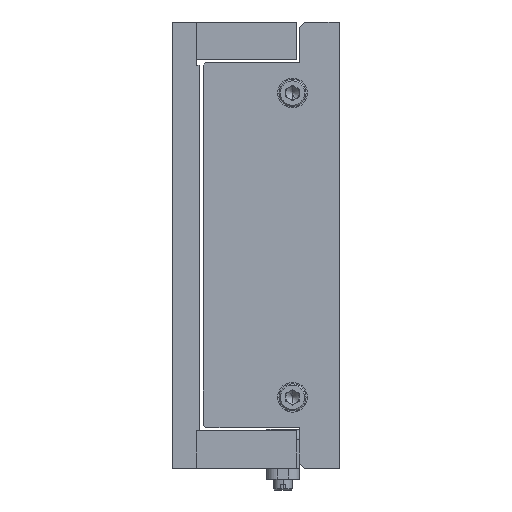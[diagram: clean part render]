
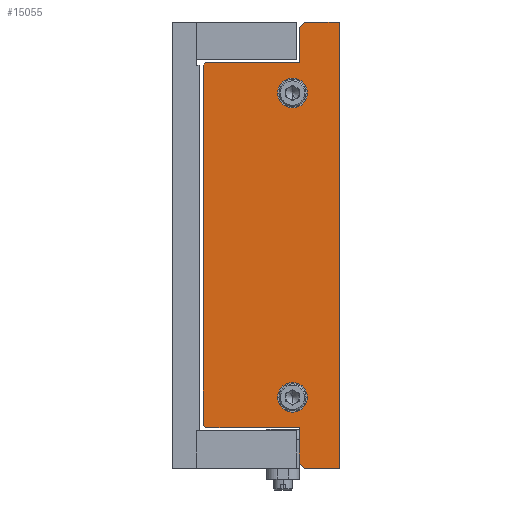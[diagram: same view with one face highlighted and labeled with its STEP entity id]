
A CAD part, left-side view. The second image highlights one B-rep face of the part: STEP entity #15055.
In plain terms, the highlighted planar face has unit normal (-1, 0, 0).
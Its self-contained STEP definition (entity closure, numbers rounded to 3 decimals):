
#99 = CARTESIAN_POINT ( 'NONE',  ( -215., 15., 67.5 ) ) ;
#462 = DIRECTION ( 'NONE',  ( 0., 1., 0. ) ) ;
#636 = LINE ( 'NONE', #15186, #35621 ) ;
#1048 = DIRECTION ( 'NONE',  ( 0., 0., 1. ) ) ;
#1095 = EDGE_LOOP ( 'NONE', ( #41796, #53863, #25285, #29300, #19360, #29048, #48874, #34674, #7753, #38085, #54609, #28973 ) ) ;
#1805 = VERTEX_POINT ( 'NONE', #3269 ) ;
#1913 = AXIS2_PLACEMENT_3D ( 'NONE', #20866, #33888, #7870 ) ;
#2095 = DIRECTION ( 'NONE',  ( 0., 0., 1. ) ) ;
#2471 = DIRECTION ( 'NONE',  ( 0., 0., -1. ) ) ;
#2683 = EDGE_CURVE ( 'NONE', #9335, #15769, #30703, .T. ) ;
#3269 = CARTESIAN_POINT ( 'NONE',  ( -215., 15., 67.5 ) ) ;
#3827 = VERTEX_POINT ( 'NONE', #6856 ) ;
#4038 = CIRCLE ( 'NONE', #36946, 5.5 ) ;
#5290 = CARTESIAN_POINT ( 'NONE',  ( -215., 0.25, -82.5 ) ) ;
#5540 = DIRECTION ( 'NONE',  ( 0., -1., 0. ) ) ;
#6050 = CARTESIAN_POINT ( 'NONE',  ( -215., 17.5, 56.25 ) ) ;
#6267 = CARTESIAN_POINT ( 'NONE',  ( -215., 0.25, 82.5 ) ) ;
#6856 = CARTESIAN_POINT ( 'NONE',  ( -215., 50.5, -66.5 ) ) ;
#6870 = DIRECTION ( 'NONE',  ( 0., -0.707, -0.707 ) ) ;
#7149 = CARTESIAN_POINT ( 'NONE',  ( -215., 13.05, -82.5 ) ) ;
#7171 = LINE ( 'NONE', #39619, #52962 ) ;
#7258 = CIRCLE ( 'NONE', #48927, 5.5 ) ;
#7294 = LINE ( 'NONE', #51054, #48445 ) ;
#7319 = DIRECTION ( 'NONE',  ( 0., 0., 1. ) ) ;
#7753 = ORIENTED_EDGE ( 'NONE', *, *, #30975, .T. ) ;
#7870 = DIRECTION ( 'NONE',  ( 0., 0., -1. ) ) ;
#8433 = VERTEX_POINT ( 'NONE', #13884 ) ;
#9335 = VERTEX_POINT ( 'NONE', #41493 ) ;
#9657 = VERTEX_POINT ( 'NONE', #7149 ) ;
#10250 = CARTESIAN_POINT ( 'NONE',  ( -215., 50.5, 66.5 ) ) ;
#10600 = VERTEX_POINT ( 'NONE', #35654 ) ;
#11937 = LINE ( 'NONE', #99, #30807 ) ;
#12918 = CARTESIAN_POINT ( 'NONE',  ( -215., 49.5, -67.5 ) ) ;
#13059 = DIRECTION ( 'NONE',  ( 0., 0., -1. ) ) ;
#13884 = CARTESIAN_POINT ( 'NONE',  ( -215., 50.5, 66.5 ) ) ;
#14466 = DIRECTION ( 'NONE',  ( 0., 0., 1. ) ) ;
#14814 = VERTEX_POINT ( 'NONE', #31471 ) ;
#14934 = CARTESIAN_POINT ( 'NONE',  ( -215., 49.5, 67.5 ) ) ;
#15055 = ADVANCED_FACE ( 'NONE', ( #43562, #17955, #38871 ), #47251, .F. ) ;
#15186 = CARTESIAN_POINT ( 'NONE',  ( -215., 13.05, -82.5 ) ) ;
#15433 = LINE ( 'NONE', #54382, #54433 ) ;
#15541 = VECTOR ( 'NONE', #44701, 1000. ) ;
#15769 = VERTEX_POINT ( 'NONE', #34368 ) ;
#16401 = VERTEX_POINT ( 'NONE', #19933 ) ;
#16465 = VERTEX_POINT ( 'NONE', #46136 ) ;
#17150 = VERTEX_POINT ( 'NONE', #33388 ) ;
#17450 = EDGE_CURVE ( 'NONE', #43642, #10600, #39140, .T. ) ;
#17955 = FACE_BOUND ( 'NONE', #54600, .T. ) ;
#18709 = DIRECTION ( 'NONE',  ( 0., 1., 0. ) ) ;
#18852 = VECTOR ( 'NONE', #18709, 1000. ) ;
#18874 = LINE ( 'NONE', #10250, #15541 ) ;
#19360 = ORIENTED_EDGE ( 'NONE', *, *, #29477, .T. ) ;
#19912 = EDGE_CURVE ( 'NONE', #50364, #14814, #42174, .T. ) ;
#19933 = CARTESIAN_POINT ( 'NONE',  ( -215., 49.5, 67.5 ) ) ;
#20866 = CARTESIAN_POINT ( 'NONE',  ( -215., 0., 0. ) ) ;
#21233 = AXIS2_PLACEMENT_3D ( 'NONE', #41054, #49695, #7319 ) ;
#21777 = EDGE_CURVE ( 'NONE', #17150, #27552, #27066, .T. ) ;
#22641 = EDGE_CURVE ( 'NONE', #14814, #9657, #636, .T. ) ;
#23117 = LINE ( 'NONE', #12918, #36583 ) ;
#23290 = ORIENTED_EDGE ( 'NONE', *, *, #17450, .F. ) ;
#24234 = LINE ( 'NONE', #14934, #18852 ) ;
#24696 = LINE ( 'NONE', #27027, #25423 ) ;
#25285 = ORIENTED_EDGE ( 'NONE', *, *, #53003, .T. ) ;
#25423 = VECTOR ( 'NONE', #5540, 1000. ) ;
#26156 = CARTESIAN_POINT ( 'NONE',  ( -215., 15., -80.55 ) ) ;
#27027 = CARTESIAN_POINT ( 'NONE',  ( -215., 15., -67.5 ) ) ;
#27066 = LINE ( 'NONE', #34124, #47973 ) ;
#27257 = CARTESIAN_POINT ( 'NONE',  ( -215., 17.5, -56.25 ) ) ;
#27310 = DIRECTION ( 'NONE',  ( -1., 0., 0. ) ) ;
#27552 = VERTEX_POINT ( 'NONE', #6267 ) ;
#27940 = DIRECTION ( 'NONE',  ( -1., 0., 0. ) ) ;
#28973 = ORIENTED_EDGE ( 'NONE', *, *, #38184, .T. ) ;
#29048 = ORIENTED_EDGE ( 'NONE', *, *, #43263, .T. ) ;
#29300 = ORIENTED_EDGE ( 'NONE', *, *, #33267, .T. ) ;
#29477 = EDGE_CURVE ( 'NONE', #1805, #16401, #24234, .T. ) ;
#30703 = CIRCLE ( 'NONE', #33527, 5.5 ) ;
#30807 = VECTOR ( 'NONE', #13059, 1000. ) ;
#30975 = EDGE_CURVE ( 'NONE', #41044, #50364, #24696, .T. ) ;
#31471 = CARTESIAN_POINT ( 'NONE',  ( -215., 15., -80.55 ) ) ;
#33267 = EDGE_CURVE ( 'NONE', #16465, #1805, #11937, .T. ) ;
#33332 = CARTESIAN_POINT ( 'NONE',  ( -215., 13.05, 82.5 ) ) ;
#33388 = CARTESIAN_POINT ( 'NONE',  ( -215., 0.25, -82.5 ) ) ;
#33527 = AXIS2_PLACEMENT_3D ( 'NONE', #49109, #27310, #14466 ) ;
#33888 = DIRECTION ( 'NONE',  ( 1., 0., 0. ) ) ;
#33939 = DIRECTION ( 'NONE',  ( 0., 0.707, -0.707 ) ) ;
#34124 = CARTESIAN_POINT ( 'NONE',  ( -215., 0.25, 82.5 ) ) ;
#34368 = CARTESIAN_POINT ( 'NONE',  ( -215., 17.5, 50.75 ) ) ;
#34674 = ORIENTED_EDGE ( 'NONE', *, *, #40146, .T. ) ;
#35378 = VECTOR ( 'NONE', #48174, 1000. ) ;
#35621 = VECTOR ( 'NONE', #6870, 1000. ) ;
#35654 = CARTESIAN_POINT ( 'NONE',  ( -215., 17.5, -61.75 ) ) ;
#36583 = VECTOR ( 'NONE', #43075, 1000. ) ;
#36677 = ORIENTED_EDGE ( 'NONE', *, *, #2683, .F. ) ;
#36946 = AXIS2_PLACEMENT_3D ( 'NONE', #6050, #27940, #2095 ) ;
#37834 = EDGE_CURVE ( 'NONE', #15769, #9335, #4038, .T. ) ;
#37902 = ORIENTED_EDGE ( 'NONE', *, *, #38788, .F. ) ;
#37919 = EDGE_CURVE ( 'NONE', #8433, #3827, #15433, .T. ) ;
#38063 = DIRECTION ( 'NONE',  ( 0., 0., 1. ) ) ;
#38085 = ORIENTED_EDGE ( 'NONE', *, *, #19912, .T. ) ;
#38184 = EDGE_CURVE ( 'NONE', #9657, #17150, #45696, .T. ) ;
#38788 = EDGE_CURVE ( 'NONE', #10600, #43642, #7258, .T. ) ;
#38871 = FACE_OUTER_BOUND ( 'NONE', #1095, .T. ) ;
#39140 = CIRCLE ( 'NONE', #21233, 5.5 ) ;
#39619 = CARTESIAN_POINT ( 'NONE',  ( -215., 13.05, 82.5 ) ) ;
#39653 = VECTOR ( 'NONE', #39934, 1000. ) ;
#39934 = DIRECTION ( 'NONE',  ( 0., -1., 0. ) ) ;
#40146 = EDGE_CURVE ( 'NONE', #3827, #41044, #23117, .T. ) ;
#40713 = CARTESIAN_POINT ( 'NONE',  ( -215., 49.5, -67.5 ) ) ;
#41044 = VERTEX_POINT ( 'NONE', #40713 ) ;
#41054 = CARTESIAN_POINT ( 'NONE',  ( -215., 17.5, -56.25 ) ) ;
#41493 = CARTESIAN_POINT ( 'NONE',  ( -215., 17.5, 61.75 ) ) ;
#41796 = ORIENTED_EDGE ( 'NONE', *, *, #21777, .T. ) ;
#42174 = LINE ( 'NONE', #26156, #35378 ) ;
#42960 = CARTESIAN_POINT ( 'NONE',  ( -215., 17.5, -50.75 ) ) ;
#43075 = DIRECTION ( 'NONE',  ( 0., -0.707, -0.707 ) ) ;
#43263 = EDGE_CURVE ( 'NONE', #16401, #8433, #18874, .T. ) ;
#43562 = FACE_BOUND ( 'NONE', #50637, .T. ) ;
#43642 = VERTEX_POINT ( 'NONE', #42960 ) ;
#44701 = DIRECTION ( 'NONE',  ( 0., 0.707, -0.707 ) ) ;
#44900 = ORIENTED_EDGE ( 'NONE', *, *, #37834, .F. ) ;
#45696 = LINE ( 'NONE', #5290, #39653 ) ;
#46136 = CARTESIAN_POINT ( 'NONE',  ( -215., 15., 80.55 ) ) ;
#46853 = VERTEX_POINT ( 'NONE', #33332 ) ;
#47251 = PLANE ( 'NONE',  #1913 ) ;
#47973 = VECTOR ( 'NONE', #38063, 1000. ) ;
#48174 = DIRECTION ( 'NONE',  ( 0., 0., -1. ) ) ;
#48220 = EDGE_CURVE ( 'NONE', #27552, #46853, #7171, .T. ) ;
#48445 = VECTOR ( 'NONE', #33939, 1000. ) ;
#48874 = ORIENTED_EDGE ( 'NONE', *, *, #37919, .T. ) ;
#48927 = AXIS2_PLACEMENT_3D ( 'NONE', #27257, #52601, #1048 ) ;
#49109 = CARTESIAN_POINT ( 'NONE',  ( -215., 17.5, 56.25 ) ) ;
#49695 = DIRECTION ( 'NONE',  ( -1., 0., 0. ) ) ;
#50364 = VERTEX_POINT ( 'NONE', #52506 ) ;
#50637 = EDGE_LOOP ( 'NONE', ( #23290, #37902 ) ) ;
#51054 = CARTESIAN_POINT ( 'NONE',  ( -215., 15., 80.55 ) ) ;
#52506 = CARTESIAN_POINT ( 'NONE',  ( -215., 15., -67.5 ) ) ;
#52601 = DIRECTION ( 'NONE',  ( -1., 0., 0. ) ) ;
#52962 = VECTOR ( 'NONE', #462, 1000. ) ;
#53003 = EDGE_CURVE ( 'NONE', #46853, #16465, #7294, .T. ) ;
#53863 = ORIENTED_EDGE ( 'NONE', *, *, #48220, .T. ) ;
#54382 = CARTESIAN_POINT ( 'NONE',  ( -215., 50.5, -66.5 ) ) ;
#54433 = VECTOR ( 'NONE', #2471, 1000. ) ;
#54600 = EDGE_LOOP ( 'NONE', ( #36677, #44900 ) ) ;
#54609 = ORIENTED_EDGE ( 'NONE', *, *, #22641, .T. ) ;
